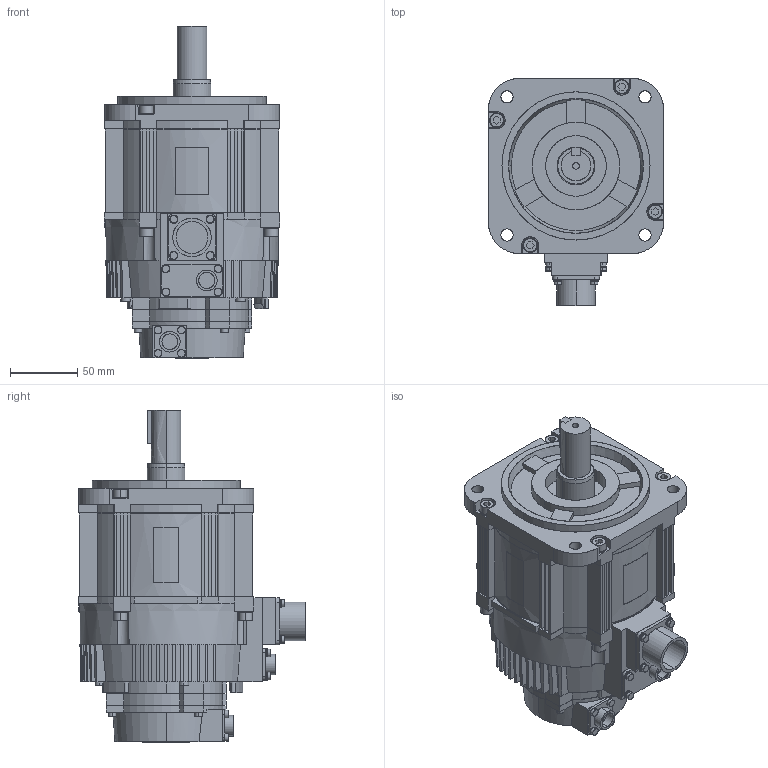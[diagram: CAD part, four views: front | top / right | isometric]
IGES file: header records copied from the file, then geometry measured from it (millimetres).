
Start section: SolidWorks IGES file using analytic representation for surfaces
Global section: file name: C:\YASKAWA\sgmgv_13__a6c.IGS; native system: SolidWorks 2006 by SolidWorks Corporation; preprocessor: SolidWorks 2006 by SolidWorks Corporation; author: yamanouchi; date: 090206.151542; units: millimetre
Bounding box: 130 x 168.49 x 246.6 mm (x, y, z)
Surface area: 168354.2 mm2 (no closed solid volume)
Topology: 0 solids, 0 shells, 942 faces, 11358 edges, 11355 vertices
Faces by surface type: bspline 589, revolution 353
